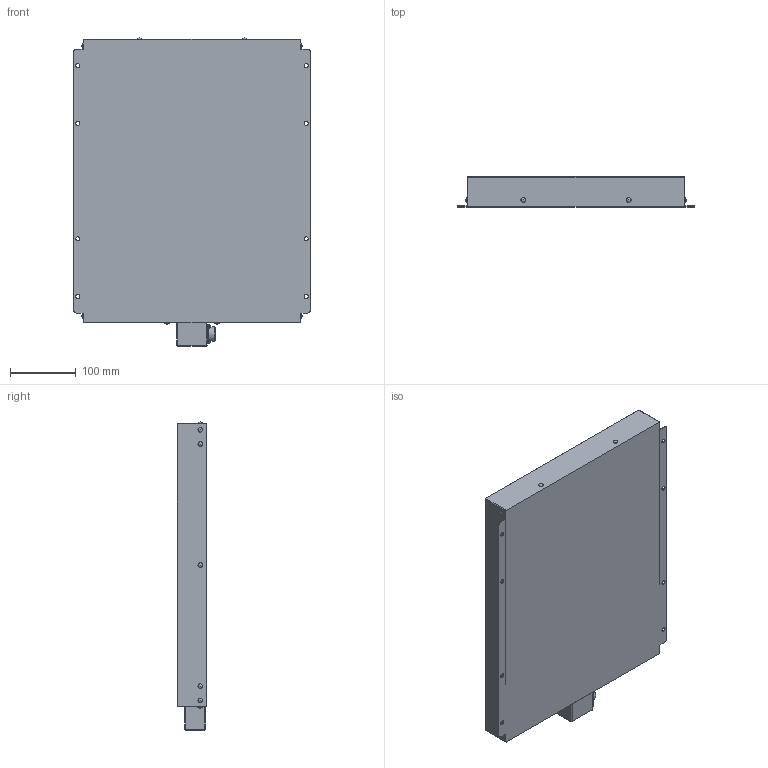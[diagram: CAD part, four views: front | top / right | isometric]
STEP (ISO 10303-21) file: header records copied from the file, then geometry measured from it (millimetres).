
FILE_DESCRIPTION (( 'STEP AP203' ), '1' );
FILE_NAME ('HDSBPA-400x300_-24.STEP', '2023-04-18T05:11:08', ( '' ), ( '' ), 'SwSTEP 2.0', 'SolidWorks 2022', '' );
FILE_SCHEMA (( 'CONFIG_CONTROL_DESIGN' ));
Length unit declared in the file: millimetre
Products named in the file (1): HDSBPA-400x300_-24
Bounding box: 360 x 45 x 466.9 mm (x, y, z)
Volume: 6332267 mm3; surface area: 383949.8 mm2
Topology: 1 solids, 1 shells, 123 faces, 335 edges, 210 vertices
Faces by surface type: cylinder 56, plane 32, sphere 30, torus 4, cone 1
Full cylindrical faces by diameter (mm): 2 x4, 5.6 x4, 6.2 x8, 6.9 x14, 16.6 x1, 22 x1
Entity records: 3163 total; most frequent: DIRECTION 580, CARTESIAN_POINT 496, ORIENTED_EDGE 430, AXIS2_PLACEMENT_3D 241, EDGE_CURVE 215, EDGE_LOOP 202, FACE_OUTER_BOUND 159, VERTEX_POINT 157
